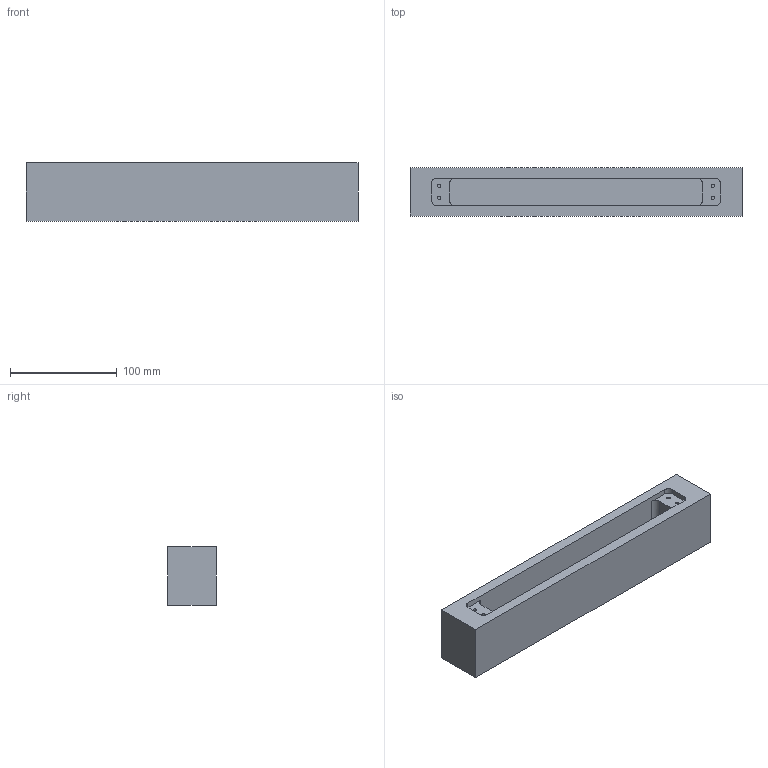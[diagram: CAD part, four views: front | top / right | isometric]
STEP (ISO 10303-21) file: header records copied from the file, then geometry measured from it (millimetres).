
FILE_DESCRIPTION(/* description */ (''),/* implementation_level */ '2;1');
FILE_NAME(/* name */ 'Stealthpivot-XL-cavity-step',/* time_stamp */ '2024-06-19T09:47:55+02:00',/* author */ (''),/* organization */ (''),/* preprocessor_version */ 'ST-DEVELOPER v16.5',/* originating_system */ '',/* authorisation */ '');
FILE_SCHEMA (('AUTOMOTIVE_DESIGN'));
Length unit declared in the file: millimetre
Products named in the file (1): Document
Bounding box: 310.5 x 45 x 55 mm (x, y, z)
Volume: 550876.4 mm3; surface area: 86577.5 mm2
Topology: 1 solids, 1 shells, 35 faces, 84 edges, 56 vertices
Faces by surface type: plane 19, bspline 16
Entity records: 990 total; most frequent: CARTESIAN_POINT 448, ORIENTED_EDGE 168, EDGE_CURVE 84, VERTEX_POINT 56, EDGE_LOOP 40, B_SPLINE_CURVE_WITH_KNOTS 37, ADVANCED_FACE 35, FACE_OUTER_BOUND 35
